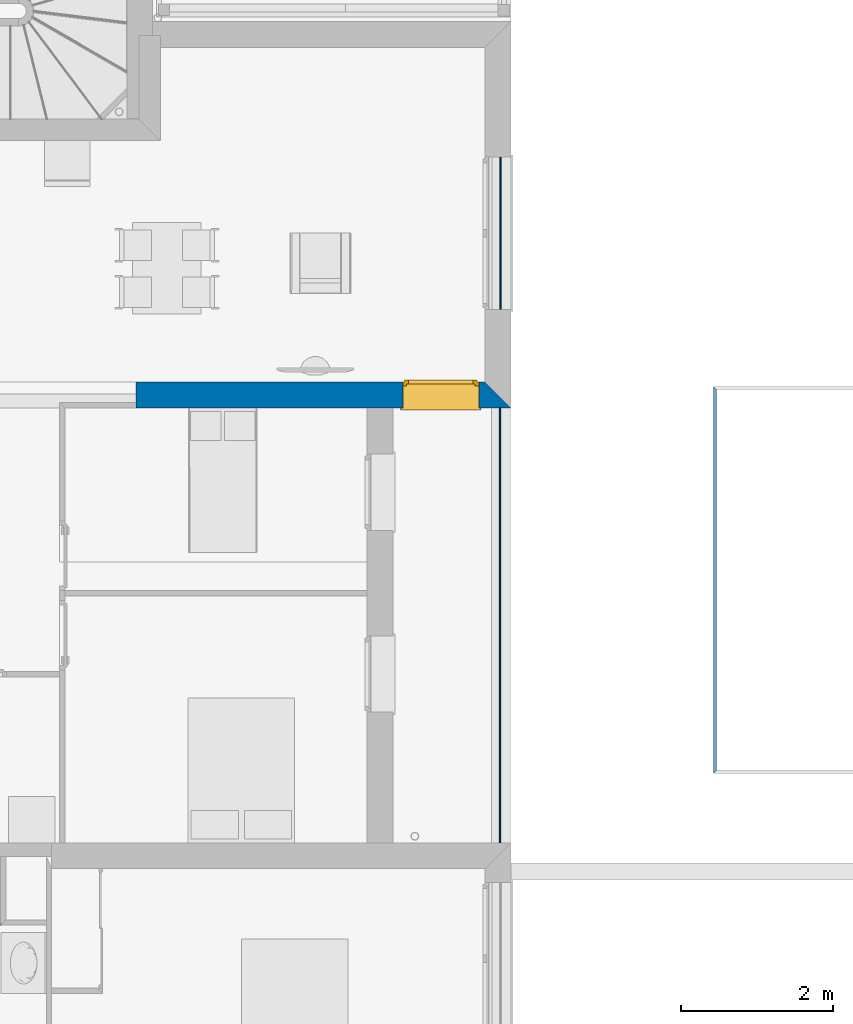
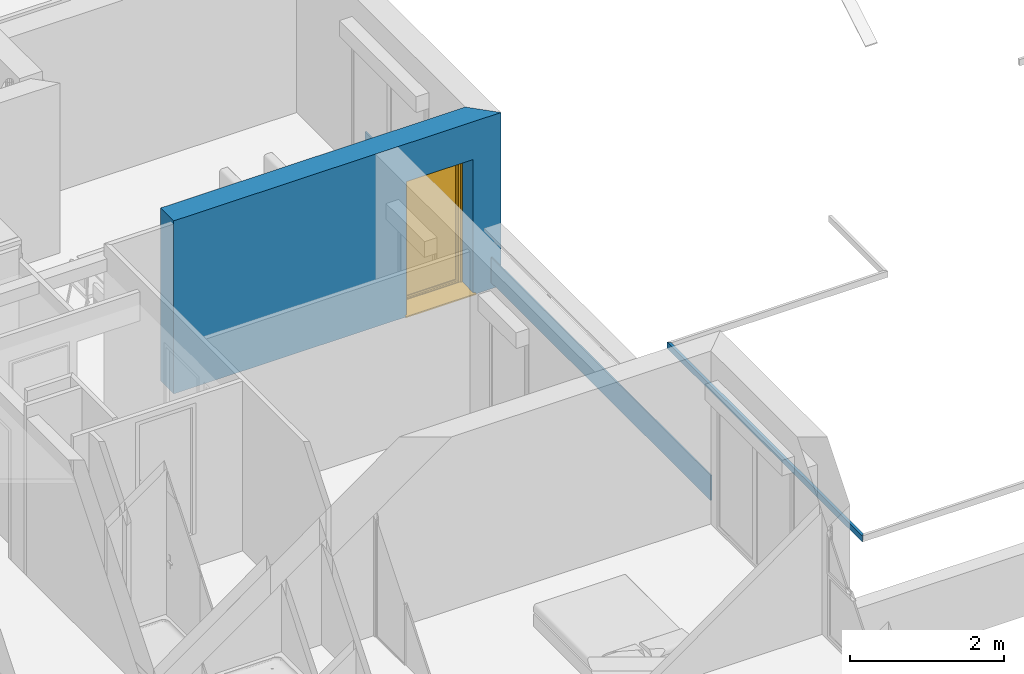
# One storey, part 44 of 171: 4 walls, 1 window, 1 opening.
"""IFC2X3 building model written with IfcOpenShell, lengths in millimetres."""

from ifc_helpers import new_model, entity, si_unit, converted_unit, derived_unit, money_unit, direction, frame, origin_with_axes, place, context, subcontext, project, spatial, polyline, outline, extrude, open_shell, faceted_brep, surface_model, source, transform, mapped, material, layer, layer_set, layer_usage, type_object, element, fill, save


model = new_model("IFC2X3")

# Units and contexts
model_context = context("Model", 3, precision=0.01, world=origin_with_axes(), true_north=direction((0.0, 1.0)))
body_context = subcontext(model_context, "Body", "Model", "MODEL_VIEW")
ifc_project = project(units=[si_unit("LENGTHUNIT", "METRE", prefix="MILLI"), si_unit("AREAUNIT", "SQUARE_METRE"), si_unit("VOLUMEUNIT", "CUBIC_METRE"), converted_unit("PLANEANGLEUNIT", "DEGREE", entity("IfcPlaneAngleMeasure", 0.0174532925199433), si_unit("PLANEANGLEUNIT", "RADIAN"), dimensions=[0, 0, 0, 0, 0, 0, 0]), money_unit("USD"), converted_unit("TIMEUNIT", "Year", entity("IfcTimeMeasure", 31557600.0), si_unit("TIMEUNIT", "SECOND"), dimensions=[0, 0, 1, 0, 0, 0, 0]), si_unit("MASSUNIT", "GRAM", prefix="KILO"), si_unit("THERMODYNAMICTEMPERATUREUNIT", "DEGREE_CELSIUS"), si_unit("LUMINOUSINTENSITYUNIT", "LUMEN"), si_unit("ENERGYUNIT", "JOULE", prefix="MEGA"), derived_unit("THERMALCONDUCTANCEUNIT", [(si_unit("POWERUNIT", "WATT"), 1), (si_unit("LENGTHUNIT", "METRE"), -1), (si_unit("THERMODYNAMICTEMPERATUREUNIT", "KELVIN"), -1)]), derived_unit("SPECIFICHEATCAPACITYUNIT", [(si_unit("ENERGYUNIT", "JOULE"), 1), (si_unit("MASSUNIT", "GRAM", prefix="KILO"), -1), (si_unit("THERMODYNAMICTEMPERATUREUNIT", "KELVIN"), -1)]), derived_unit("MASSDENSITYUNIT", [(si_unit("MASSUNIT", "GRAM", prefix="KILO"), 1), (si_unit("VOLUMEUNIT", "CUBIC_METRE"), -1)])], contexts=[model_context])

# Site, building, storey
site_placement = place(None, origin_with_axes())
site = spatial("IfcSite", under=ifc_project, at=site_placement, Name="Site", CompositionType="ELEMENT")
building_placement = place(site_placement, origin_with_axes())
building = spatial("IfcBuilding", under=site, at=building_placement, Name="Bâtiment", CompositionType="ELEMENT")
storey_placement = place(building_placement, frame((0.0, 0.0, 3000.0), z_axis=(0.0, 0.0, 1.0), x_axis=(1.0, 0.0, 0.0)))
storey = spatial("IfcBuildingStorey", under=building, at=storey_placement, Name="rdc", CompositionType="ELEMENT", Elevation=3000.0)

# Walls
ifc_material_1 = material(Name="MANQUANT")
ifc_layer_1 = layer(ifc_material_1, 20.0, ventilated="UNKNOWN")
ifc_layer_set_1 = layer_set([ifc_layer_1], Name="MANQUANT 20")
ifc_layer_usage_1 = layer_usage(ifc_layer_set_1, "AXIS2", "NEGATIVE", 20.0)
wall_type_1 = type_object("IfcWallType", Name="MANQUANT 20", PredefinedType="NOTDEFINED")
wall_1_placement = place(storey_placement, frame((2234233.084506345, -639732.7039496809, 100.0000000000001), z_axis=(0.0, 0.0, 1.0), x_axis=(-0.0007973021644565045, 0.9999996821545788, 0.0)))
element("IfcWallStandardCase", 1, at=wall_1_placement, inside=storey, type_object=wall_type_1, material=ifc_layer_usage_1, Name="Mur-150", context=body_context, shape_type="SweptSolid", body=[
    extrude(outline(polyline([(0.0, 0.0), (1999.99999989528, 1.13686837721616e-10), (1999.99999989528, 20.0000000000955), (0.0, 20.0000000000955), (0.0, 0.0)])), origin_with_axes(), (0.0, 0.0, 1.0), 400.0),
])
ifc_layer_usage_2 = layer_usage(ifc_layer_set_1, "AXIS2", "NEGATIVE", 20.0)
wall_2_placement = place(storey_placement, frame((2234226.671296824, -646738.4413036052, 100.0000000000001), z_axis=(0.0, 0.0, 1.0), x_axis=(-3.175187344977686e-05, 0.9999999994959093, 0.0)))
element("IfcWallStandardCase", 2, at=wall_2_placement, inside=storey, type_object=wall_type_1, material=ifc_layer_usage_2, Name="Mur-150", context=body_context, shape_type="SweptSolid", body=[
    extrude(outline(polyline([(-2.39295161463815e-06, 0.0), (5713.115768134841, 0.0), (5713.116403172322, 19.99999999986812), (0.000632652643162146, 19.99999999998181), (-2.39295161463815e-06, 0.0)])), origin_with_axes(), (0.0, 0.0, 1.0), 400.0),
])

# Wall, opening, window
ifc_material_2 = material(Name="Parpaing 312445824")
ifc_layer_2 = layer(ifc_material_2, 180.0, ventilated="UNKNOWN")
ifc_material_3 = material(Name="Isolant styromousse 301821074")
ifc_layer_3 = layer(ifc_material_3, 160.0, ventilated="UNKNOWN")
ifc_layer_set_2 = layer_set([ifc_layer_2, ifc_layer_3], Name="isol int 18+16 0018356637")
ifc_layer_usage_3 = layer_usage(ifc_layer_set_2, "AXIS2", "NEGATIVE", 0.0)
wall_type_2 = type_object("IfcWallType", Name="isol int 18+16 0018356637 340", PredefinedType="NOTDEFINED")
wall_3_placement = place(storey_placement, frame((2234356.67129536, -641025.3255383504, 0.0), z_axis=(0.0, 0.0, 1.0), x_axis=(-1.0, 0.0, 0.0)))
wall_3 = element("IfcWallStandardCase", 3, at=wall_3_placement, inside=storey, type_object=wall_type_2, material=ifc_layer_usage_3, Name="Mur-144", context=body_context, shape_type="SweptSolid", body=[
    extrude(outline(polyline([(339.9999998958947, -340.0000000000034), (4921.858403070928, -340.0000000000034), (4921.858403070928, 0.0), (0.0, 0.0), (339.9999998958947, -340.0000000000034)])), origin_with_axes(), (0.0, 0.0, 1.0), 2750.0),
])
opening_placement = place(wall_3_placement, frame((918.6808693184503, 0.0, 0.0), z_axis=(0.0, 0.0, 1.0), x_axis=(1.0, 0.0, 0.0)))
opening = element("IfcOpeningElement", 4, at=opening_placement, cuts=wall_3, Name="Fen-134", context=body_context, shape_type="Brep", body=[
    faceted_brep([(500.0, -341.0000000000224, 2150.000000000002), (-500.0, -341.0000000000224, 2150.000000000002), (-500.0, -341.0000000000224, 0.0), (500.0, -341.0000000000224, 0.0), (500.0, -530.0000000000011, 2150.000000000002), (-500.0, -530.0000000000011, 2150.000000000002), (-500.0, -290.0000000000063, 2150.000000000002), (-500.0, -290.0000000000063, 0.0), (-500.0, 1.000000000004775, 0.0), (500.0, 1.000000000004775, 0.0), (500.0, -290.0000000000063, 0.0), (500.0, -290.0000000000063, 2150.000000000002), (500.0, -280.0000000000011, 2150.000000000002), (500.0, -280.0000000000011, 2400.000000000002), (500.0, -530.0000000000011, 2400.000000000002), (-500.0, -530.0000000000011, 2400.000000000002), (-500.0, -280.0000000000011, 2400.000000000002), (-500.0, -280.0000000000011, 2150.000000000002), (-500.0, 1.000000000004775, 2150.000000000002), (500.0, 1.000000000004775, 2150.000000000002)], [[[0, 1, 2, 3]], [[1, 0, 4, 5]], [[1, 6, 7, 2]], [[7, 8, 9, 10, 3, 2]], [[11, 0, 3, 10]], [[0, 11, 12, 13, 14, 4]], [[15, 5, 4, 14]], [[6, 1, 5, 15, 16, 17]], [[6, 17, 18, 8, 7]], [[19, 9, 8, 18]], [[12, 11, 10, 9, 19]], [[12, 17, 16, 13]], [[16, 15, 14, 13]], [[17, 12, 19, 18]]]),
])
window_style = type_object("IfcWindowStyle", Name="Fenêtre 27", ConstructionType="NOTDEFINED", OperationType="SINGLE_PANEL", ParameterTakesPrecedence=False, Sizeable=False)
shared_shape = source(origin_with_axes(), body_context, "Body", "SurfaceModel", [
    surface_model("IfcShellBasedSurfaceModel", [(500.0, -51.00000000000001, 40.00000000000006), (500.0, -51.00000000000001, 50.00000000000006), (-500.0, -51.00000000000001, 50.0), (-500.0, -51.00000000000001, 40.0), (530.0, -369.9999999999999, 28.96551724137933), (530.0, -339.9999999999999, 30.00324289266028), (500.0, -339.9999999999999, 30.00324289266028), (-500.0, -339.9999999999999, 30.00324289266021), (-530.0, -339.9999999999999, 30.00324289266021), (-530.0, -369.9999999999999, 28.96551724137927), (530.0, -369.9999999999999, 8.96551724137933), (-530.0, -369.9999999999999, 8.965517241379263), (530.0, -359.9999999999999, 18.96551724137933), (-530.0, -359.9999999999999, 18.96551724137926)], [open_shell([[[0, 1, 2, 3]], [[4, 5, 6, 0, 3, 7, 8, 9]], [[10, 4, 9, 11]], [[12, 10, 11, 13]]])]),
    faceted_brep([(-500.0, -59.99999999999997, 2400.0), (-497.0, -59.99999999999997, 2400.0), (-497.0, 190.0, 2400.0), (-500.0, 190.0, 2400.0), (-500.0, -59.99999999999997, 2150.0), (-497.0, -59.99999999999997, 2150.0), (-497.0, 190.0, 2150.0), (-500.0, 190.0, 2150.0)], [[[0, 1, 2, 3]], [[4, 5, 1, 0]], [[1, 5, 6, 2]], [[3, 2, 6, 7]], [[0, 3, 7, 4]], [[7, 6, 5, 4]]]),
    faceted_brep([(497.0, -59.99999999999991, 2400.0), (500.0, -59.99999999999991, 2400.0), (500.0, 190.0000000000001, 2400.0), (497.0, 190.0000000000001, 2400.0), (497.0, -59.99999999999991, 2150.0), (500.0, -59.99999999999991, 2150.0), (500.0, 190.0000000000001, 2150.0), (497.0, 190.0000000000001, 2150.0)], [[[0, 1, 2, 3]], [[4, 5, 1, 0]], [[1, 5, 6, 2]], [[3, 2, 6, 7]], [[0, 3, 7, 4]], [[7, 6, 5, 4]]]),
    faceted_brep([(-497.0, -60.0, 2150.0), (497.0, -59.99999999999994, 2150.0), (497.0, -59.99999999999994, 2400.0), (-497.0, -60.0, 2400.0), (-497.0, -56.99999999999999, 2150.0), (497.0, -56.99999999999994, 2150.0), (497.0, -56.99999999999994, 2397.0), (497.0, 187.0000000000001, 2397.0), (497.0, 187.0000000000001, 2153.0), (497.0, -37.99999999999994, 2153.0), (497.0, -37.99999999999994, 2150.0), (497.0, 190.0000000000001, 2150.0), (497.0, 190.0000000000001, 2400.0), (-497.0, 190.0, 2400.0), (-497.0, 190.0, 2150.0), (-497.0, -37.99999999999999, 2150.0), (-497.0, -37.99999999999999, 2153.0), (-497.0, 187.0, 2153.0), (-497.0, 187.0, 2397.0), (-497.0, -56.99999999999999, 2397.0)], [[[0, 1, 2, 3]], [[4, 5, 1, 0]], [[1, 5, 6, 7, 8, 9, 10, 11, 12, 2]], [[3, 2, 12, 13]], [[0, 3, 13, 14, 15, 16, 17, 18, 19, 4]], [[19, 6, 5, 4]], [[18, 7, 6, 19]], [[17, 8, 7, 18]], [[16, 9, 8, 17]], [[15, 10, 9, 16]], [[14, 11, 10, 15]], [[13, 12, 11, 14]]]),
    faceted_brep([(-494.0, -40.37442957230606, 2256.419644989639), (-494.0, -41.99999999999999, 2275.0), (-494.0, -40.37442957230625, 2293.580355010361), (-494.0, -35.54711042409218, 2311.596155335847), (-494.0, -27.66471820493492, 2328.5), (-494.0, -16.96675541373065, 2343.77827423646), (-494.0, -3.778274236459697, 2356.96675541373), (-494.0, 11.5, 2367.664718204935), (-494.0, 28.40384466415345, 2375.547110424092), (-494.0, 46.41964498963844, 2380.374429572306), (-494.0, 64.99999999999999, 2382.0), (-494.0, 83.58035501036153, 2380.374429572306), (-494.0, 101.5961553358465, 2375.547110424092), (-494.0, 118.5, 2367.664718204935), (-494.0, 133.7782742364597, 2356.96675541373), (-494.0, 146.9667554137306, 2343.77827423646), (-494.0, 157.6647182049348, 2328.5), (-494.0, 165.5471104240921, 2311.596155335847), (-494.0, 170.3744295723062, 2293.580355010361), (-494.0, 171.9999999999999, 2275.0), (-494.0, 170.3744295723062, 2256.419644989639), (-494.0, 165.5471104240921, 2238.403844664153), (-494.0, 157.6647182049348, 2221.5), (-494.0, 146.9667554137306, 2206.22172576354), (-494.0, 133.7782742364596, 2193.033244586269), (-494.0, 118.4999999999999, 2182.335281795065), (-494.0, 101.5961553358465, 2174.452889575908), (-494.0, 83.58035501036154, 2169.625570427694), (-494.0, 65.00000000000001, 2168.0), (-494.0, 46.4196449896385, 2169.625570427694), (-494.0, 28.40384466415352, 2174.452889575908), (-494.0, 11.50000000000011, 2182.335281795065), (-494.0, -3.778274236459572, 2193.033244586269), (-494.0, -16.9667554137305, 2206.22172576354), (-494.0, -27.66471820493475, 2221.5), (-494.0, -35.54711042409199, 2238.403844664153), (494.0, -40.374429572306, 2256.419644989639), (494.0, -41.99999999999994, 2275.0), (494.0, -40.37442957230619, 2293.580355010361), (494.0, -35.54711042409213, 2311.596155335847), (494.0, -27.66471820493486, 2328.5), (494.0, -16.96675541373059, 2343.77827423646), (494.0, -3.778274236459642, 2356.96675541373), (494.0, 11.50000000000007, 2367.664718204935), (494.0, 28.40384466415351, 2375.547110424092), (494.0, 46.41964498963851, 2380.374429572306), (494.0, 65.00000000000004, 2382.0), (494.0, 83.58035501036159, 2380.374429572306), (494.0, 101.5961553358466, 2375.547110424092), (494.0, 118.5, 2367.664718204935), (494.0, 133.7782742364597, 2356.96675541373), (494.0, 146.9667554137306, 2343.77827423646), (494.0, 157.6647182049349, 2328.5), (494.0, 165.5471104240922, 2311.596155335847), (494.0, 170.3744295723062, 2293.580355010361), (494.0, 172.0, 2275.0), (494.0, 170.3744295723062, 2256.419644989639), (494.0, 165.5471104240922, 2238.403844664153), (494.0, 157.6647182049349, 2221.5), (494.0, 146.9667554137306, 2206.22172576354), (494.0, 133.7782742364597, 2193.033244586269), (494.0, 118.5, 2182.335281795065), (494.0, 101.5961553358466, 2174.452889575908), (494.0, 83.5803550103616, 2169.625570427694), (494.0, 65.00000000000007, 2168.0), (494.0, 46.41964498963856, 2169.625570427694), (494.0, 28.40384466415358, 2174.452889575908), (494.0, 11.50000000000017, 2182.335281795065), (494.0, -3.778274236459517, 2193.033244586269), (494.0, -16.96675541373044, 2206.22172576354), (494.0, -27.6647182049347, 2221.5), (494.0, -35.54711042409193, 2238.403844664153)], [[[0, 1, 2, 3, 4, 5, 6, 7, 8, 9, 10, 11, 12, 13, 14, 15, 16, 17, 18, 19, 20, 21, 22, 23, 24, 25, 26, 27, 28, 29, 30, 31, 32, 33, 34, 35]], [[0, 36, 37, 1]], [[1, 37, 38, 2]], [[2, 38, 39, 3]], [[3, 39, 40, 4]], [[4, 40, 41, 5]], [[5, 41, 42, 6]], [[6, 42, 43, 7]], [[7, 43, 44, 8]], [[8, 44, 45, 9]], [[9, 45, 46, 10]], [[10, 46, 47, 11]], [[11, 47, 48, 12]], [[12, 48, 49, 13]], [[13, 49, 50, 14]], [[14, 50, 51, 15]], [[15, 51, 52, 16]], [[16, 52, 53, 17]], [[17, 53, 54, 18]], [[18, 54, 55, 19]], [[19, 55, 56, 20]], [[20, 56, 57, 21]], [[21, 57, 58, 22]], [[22, 58, 59, 23]], [[23, 59, 60, 24]], [[24, 60, 61, 25]], [[25, 61, 62, 26]], [[26, 62, 63, 27]], [[27, 63, 64, 28]], [[28, 64, 65, 29]], [[29, 65, 66, 30]], [[30, 66, 67, 31]], [[31, 67, 68, 32]], [[32, 68, 69, 33]], [[33, 69, 70, 34]], [[34, 70, 71, 35]], [[35, 71, 36, 0]], [[36, 71, 70, 69, 68, 67, 66, 65, 64, 63, 62, 61, 60, 59, 58, 57, 56, 55, 54, 53, 52, 51, 50, 49, 48, 47, 46, 45, 44, 43, 42, 41, 40, 39, 38, 37]]]),
    faceted_brep([(500.0, -34.99999999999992, 30.0), (500.0, -34.99999999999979, 2150.0), (500.0, -59.99999999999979, 2150.0), (500.0, -59.99999999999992, 30.0), (475.0, -34.99999999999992, 30.0), (475.0, -34.99999999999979, 2150.0), (475.0, -37.99999999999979, 2150.0), (497.0, -37.99999999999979, 2150.0), (497.0, -56.99999999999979, 2150.0), (475.0, -56.99999999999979, 2150.0), (475.0, -59.99999999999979, 2150.0), (475.0, -59.99999999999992, 30.0), (475.0, -56.99999999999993, 30.0), (497.0, -56.99999999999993, 30.0), (497.0, -37.99999999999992, 30.0), (475.0, -37.99999999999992, 30.0)], [[[0, 1, 2, 3]], [[4, 5, 1, 0]], [[1, 5, 6, 7, 8, 9, 10, 2]], [[3, 2, 10, 11]], [[0, 3, 11, 12, 13, 14, 15, 4]], [[15, 6, 5, 4]], [[14, 7, 6, 15]], [[13, 8, 7, 14]], [[12, 9, 8, 13]], [[11, 10, 9, 12]]]),
    faceted_brep([(-500.0, -34.99999999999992, 30.0), (-500.0, -59.99999999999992, 30.0), (-500.0, -59.99999999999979, 2150.0), (-500.0, -34.99999999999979, 2150.0), (-475.0, -34.99999999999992, 30.0), (-475.0, -37.99999999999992, 30.0), (-497.0, -37.99999999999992, 30.0), (-497.0, -56.99999999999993, 30.0), (-475.0, -56.99999999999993, 30.0), (-475.0, -59.99999999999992, 30.0), (-475.0, -59.99999999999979, 2150.0), (-475.0, -56.99999999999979, 2150.0), (-497.0, -56.99999999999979, 2150.0), (-497.0, -37.99999999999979, 2150.0), (-475.0, -37.99999999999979, 2150.0), (-475.0, -34.99999999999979, 2150.0)], [[[0, 1, 2, 3]], [[0, 4, 5, 6, 7, 8, 9, 1]], [[1, 9, 10, 2]], [[3, 2, 10, 11, 12, 13, 14, 15]], [[4, 0, 3, 15]], [[5, 4, 15, 14]], [[6, 5, 14, 13]], [[7, 6, 13, 12]], [[8, 7, 12, 11]], [[9, 8, 11, 10]]]),
    faceted_brep([(497.0, -46.66666666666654, 2275.0), (497.0, -46.66666666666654, 2266.666666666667), (-497.0, -46.6666666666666, 2266.666666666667), (-497.0, -46.6666666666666, 2275.0), (497.0, -51.66666666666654, 2275.0), (497.0, -51.66666666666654, 2266.666666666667), (497.0, -49.99999999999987, 2250.0), (497.0, -44.99999999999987, 2250.0), (-497.0, -44.99999999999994, 2250.0), (-497.0, -49.99999999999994, 2250.0), (-497.0, -51.6666666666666, 2266.666666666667), (-497.0, -51.6666666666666, 2275.0)], [[[0, 1, 2, 3]], [[4, 5, 6, 7, 1, 0]], [[2, 1, 7, 8]], [[3, 2, 8, 9, 10, 11]], [[3, 11, 4, 0]], [[10, 5, 4, 11]], [[9, 6, 5, 10]], [[8, 7, 6, 9]]]),
    faceted_brep([(-497.0, -44.99999999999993, 2250.0), (497.0, -44.99999999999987, 2250.0), (497.0, -46.66666666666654, 2233.333333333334), (-497.0, -46.6666666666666, 2233.333333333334), (-497.0, -49.99999999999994, 2250.0), (497.0, -49.99999999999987, 2250.0), (497.0, -51.66666666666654, 2233.333333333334), (497.0, -51.66666666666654, 2216.666666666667), (497.0, -49.99999999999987, 2200.0), (497.0, -44.99999999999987, 2200.0), (497.0, -46.66666666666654, 2216.666666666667), (-497.0, -46.6666666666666, 2216.666666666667), (-497.0, -44.99999999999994, 2200.0), (-497.0, -49.99999999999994, 2200.0), (-497.0, -51.6666666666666, 2216.666666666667), (-497.0, -51.6666666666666, 2233.333333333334)], [[[0, 1, 2, 3]], [[4, 5, 1, 0]], [[1, 5, 6, 7, 8, 9, 10, 2]], [[3, 2, 10, 11]], [[0, 3, 11, 12, 13, 14, 15, 4]], [[15, 6, 5, 4]], [[14, 7, 6, 15]], [[13, 8, 7, 14]], [[12, 9, 8, 13]], [[11, 10, 9, 12]]]),
    faceted_brep([(-497.0, -44.99999999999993, 2200.0), (497.0, -44.99999999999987, 2200.0), (497.0, -46.66666666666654, 2183.333333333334), (-497.0, -46.6666666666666, 2183.333333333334), (-497.0, -49.99999999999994, 2200.0), (497.0, -49.99999999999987, 2200.0), (497.0, -51.66666666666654, 2183.333333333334), (497.0, -51.66666666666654, 2166.666666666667), (497.0, -49.99999999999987, 2150.000000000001), (497.0, -44.99999999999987, 2150.000000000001), (497.0, -46.66666666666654, 2166.666666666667), (-497.0, -46.6666666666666, 2166.666666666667), (-497.0, -44.99999999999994, 2150.000000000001), (-497.0, -49.99999999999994, 2150.000000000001), (-497.0, -51.6666666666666, 2166.666666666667), (-497.0, -51.6666666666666, 2183.333333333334)], [[[0, 1, 2, 3]], [[4, 5, 1, 0]], [[1, 5, 6, 7, 8, 9, 10, 2]], [[3, 2, 10, 11]], [[0, 3, 11, 12, 13, 14, 15, 4]], [[15, 6, 5, 4]], [[14, 7, 6, 15]], [[13, 8, 7, 14]], [[12, 9, 8, 13]], [[11, 10, 9, 12]]]),
    faceted_brep([(-475.0000000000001, 0.0, 2100.0), (-500.0, 0.0, 2100.0), (-500.0, -50.00000000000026, 2100.0), (-450.0, -50.00000000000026, 2100.0), (-450.0, -25.00000000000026, 2100.0), (-475.0000000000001, -25.00000000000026, 2100.0), (-475.0000000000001, 0.0, 50.00000000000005), (-500.0, 0.0, 50.00000000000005), (-500.0, -50.00000000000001, 50.00000000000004), (-450.0, -50.00000000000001, 50.00000000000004), (-450.0, -25.00000000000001, 50.00000000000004), (-475.0000000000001, -25.00000000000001, 50.00000000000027)], [[[0, 1, 2, 3, 4, 5]], [[6, 7, 1, 0]], [[1, 7, 8, 2]], [[2, 8, 9, 3]], [[4, 3, 9, 10]], [[10, 11, 5, 4]], [[5, 11, 6, 0]], [[11, 10, 9, 8, 7, 6]]]),
    faceted_brep([(450.0, -25.00000000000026, 2100.0), (450.0, -50.00000000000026, 2100.0), (500.0, -50.00000000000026, 2100.0), (500.0, 0.0, 2100.0), (475.0000000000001, 0.0, 2100.0), (475.0000000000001, -25.00000000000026, 2100.0), (450.0, -25.00000000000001, 50.00000000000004), (450.0, -50.00000000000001, 50.00000000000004), (500.0, -50.00000000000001, 50.00000000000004), (500.0, 0.0, 50.00000000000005), (475.0000000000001, 0.0, 50.00000000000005), (475.0000000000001, -25.00000000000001, 50.00000000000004)], [[[0, 1, 2, 3, 4, 5]], [[6, 7, 1, 0]], [[8, 2, 1, 7]], [[9, 3, 2, 8]], [[4, 3, 9, 10]], [[10, 11, 5, 4]], [[5, 11, 6, 0]], [[11, 10, 9, 8, 7, 6]]]),
    faceted_brep([(450.0, -25.00000000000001, 50.00000000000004), (450.0, -50.00000000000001, 50.00000000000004), (500.0, -50.00000000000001, 50.00000000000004), (500.0, 0.0, 50.00000000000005), (475.0000000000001, 0.0, 50.00000000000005), (475.0000000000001, -25.00000000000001, 50.00000000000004), (-450.0, -25.00000000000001, 50.00000000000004), (-450.0, -50.00000000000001, 50.00000000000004), (-500.0, -50.00000000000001, 50.00000000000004), (-500.0, -50.0, 0.0), (500.0, -50.0, 0.0), (500.0, 0.0, 0.0), (-475.0000000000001, 0.0, 24.99999999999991), (475.0000000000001, 0.0, 24.99999999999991), (-500.0, 0.0, 0.0), (-500.0, 0.0, 50.00000000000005), (-475.0000000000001, 0.0, 50.00000000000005), (475.0000000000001, -25.0, 24.99999999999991), (-475.0000000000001, -25.0, 24.99999999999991), (-475.0000000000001, -25.00000000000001, 50.00000000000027)], [[[0, 1, 2, 3, 4, 5]], [[6, 7, 1, 0]], [[8, 9, 10, 2, 1, 7]], [[11, 3, 2, 10]], [[12, 13, 4, 3, 11, 14, 15, 16]], [[13, 17, 5, 4]], [[5, 17, 18, 19, 6, 0]], [[19, 16, 15, 8, 7, 6]], [[15, 14, 9, 8]], [[14, 11, 10, 9]], [[12, 18, 17, 13]], [[19, 18, 12, 16]]]),
    faceted_brep([(-475.0000000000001, 0.0, 2100.0), (-500.0, 0.0, 2100.0), (-500.0, 0.0, 2150.0), (500.0, 0.0, 2150.0), (500.0, 0.0, 2100.0), (475.0000000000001, 0.0, 2100.0), (475.0000000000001, 0.0, 2125.0), (-475.0000000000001, 0.0, 2125.0), (-475.0000000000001, -25.00000000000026, 2100.0), (-450.0, -25.00000000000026, 2100.0), (-450.0, -50.00000000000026, 2100.0), (-500.0, -50.00000000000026, 2100.0), (-500.0, -50.00000000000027, 2150.0), (500.0, -50.00000000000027, 2150.0), (500.0, -50.00000000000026, 2100.0), (475.0000000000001, -25.00000000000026, 2100.0), (450.0, -50.00000000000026, 2100.0), (450.0, -25.00000000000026, 2100.0), (475.0000000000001, -25.00000000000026, 2125.0), (-475.0000000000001, -25.00000000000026, 2125.0)], [[[0, 1, 2, 3, 4, 5, 6, 7]], [[8, 9, 10, 11, 1, 0]], [[2, 1, 11, 12]], [[3, 2, 12, 13]], [[4, 3, 13, 14]], [[15, 5, 4, 14, 16, 17]], [[5, 15, 18, 6]], [[6, 18, 19, 7]], [[7, 19, 8, 0]], [[17, 9, 8, 19, 18, 15]], [[17, 16, 10, 9]], [[14, 13, 12, 11, 10, 16]]]),
    faceted_brep([(-425.0000000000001, -25.00000000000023, 2075.0), (-425.0000000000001, 24.99999999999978, 2075.0), (-475.0000000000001, 24.99999999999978, 2075.0), (-475.0000000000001, -25.00000000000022, 2075.0), (-425.0000000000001, -24.99999999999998, 75.00000000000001), (-425.0000000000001, 25.00000000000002, 75.00000000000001), (-475.0000000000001, 25.00000000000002, 75.00000000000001), (-475.0000000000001, -24.99999999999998, 75.00000000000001)], [[[0, 1, 2, 3]], [[4, 5, 1, 0]], [[1, 5, 6, 2]], [[3, 2, 6, 7]], [[0, 3, 7, 4]], [[7, 6, 5, 4]]]),
    faceted_brep([(425.0000000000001, -25.00000000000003, 75.00000000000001), (425.0000000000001, 24.99999999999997, 75.00000000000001), (475.0000000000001, 24.99999999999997, 75.00000000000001), (475.0000000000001, -25.00000000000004, 75.00000000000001), (425.0000000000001, -25.00000000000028, 2075.0), (425.0000000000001, 24.99999999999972, 2075.0), (475.0000000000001, 24.99999999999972, 2075.0), (475.0000000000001, -25.00000000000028, 2075.0)], [[[0, 1, 2, 3]], [[4, 5, 1, 0]], [[1, 5, 6, 2]], [[3, 2, 6, 7]], [[0, 3, 7, 4]], [[7, 6, 5, 4]]]),
    faceted_brep([(475.0000000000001, -25.00000000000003, 25.0), (475.0000000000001, 24.99999999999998, 25.00000000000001), (475.0000000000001, 24.99999999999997, 75.00000000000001), (475.0000000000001, -25.00000000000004, 75.00000000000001), (-475.0000000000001, -24.99999999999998, 25.0), (-475.0000000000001, 25.00000000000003, 25.00000000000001), (-475.0000000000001, 25.00000000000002, 75.00000000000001), (-425.0000000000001, 25.00000000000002, 75.00000000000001), (425.0000000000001, 24.99999999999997, 75.00000000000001), (425.0000000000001, -25.00000000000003, 75.00000000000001), (-425.0000000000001, -24.99999999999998, 75.00000000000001), (-475.0000000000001, -24.99999999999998, 75.00000000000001)], [[[0, 1, 2, 3]], [[4, 5, 1, 0]], [[1, 5, 6, 7, 8, 2]], [[3, 2, 8, 9]], [[0, 3, 9, 10, 11, 4]], [[11, 6, 5, 4]], [[10, 7, 6, 11]], [[9, 8, 7, 10]]]),
    faceted_brep([(-475.0000000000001, -25.00000000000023, 2125.0), (-475.0000000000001, 24.99999999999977, 2125.0), (-475.0000000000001, 24.99999999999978, 2075.0), (-475.0000000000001, -25.00000000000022, 2075.0), (475.0000000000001, -25.00000000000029, 2125.0), (475.0000000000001, 24.99999999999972, 2125.0), (475.0000000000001, 24.99999999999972, 2075.0), (425.0000000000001, 24.99999999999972, 2075.0), (-425.0000000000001, 24.99999999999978, 2075.0), (-425.0000000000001, -25.00000000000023, 2075.0), (425.0000000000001, -25.00000000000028, 2075.0), (475.0000000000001, -25.00000000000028, 2075.0)], [[[0, 1, 2, 3]], [[4, 5, 1, 0]], [[1, 5, 6, 7, 8, 2]], [[3, 2, 8, 9]], [[0, 3, 9, 10, 11, 4]], [[11, 6, 5, 4]], [[10, 7, 6, 11]], [[9, 8, 7, 10]]]),
    surface_model("IfcShellBasedSurfaceModel", [(-425.0000000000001, -10.00000000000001, 75.00000000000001), (425.0000000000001, -10.00000000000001, 75.00000000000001), (425.0000000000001, -10.00000000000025, 2075.0), (-425.0000000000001, -10.00000000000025, 2075.0)], [open_shell([[[0, 1, 2, 3]]])]),
    surface_model("IfcShellBasedSurfaceModel", [(-425.0000000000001, 9.999999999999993, 75.00000000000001), (-425.0000000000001, 9.99999999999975, 2075.0), (425.0000000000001, 9.99999999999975, 2075.0), (425.0000000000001, 9.999999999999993, 75.00000000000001)], [open_shell([[[0, 1, 2, 3]]])]),
])
window_placement = place(opening_placement, frame((500.0, 0.0, 0.0), z_axis=(0.0, 0.0, 1.0), x_axis=(-1.0, 0.0, 0.0)))
window = element("IfcWindow", 5, at=window_placement, inside=storey, type_object=window_style, Name="Fen-134", OverallHeight=2150.0, OverallWidth=1000.0, context=body_context, shape_type="MappedRepresentation", body=[
    mapped(shared_shape, transform((500.0, 340.0000000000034, 0.0))),
])
fill(opening, window)

# Wall
ifc_material_4 = material(Name="Empty Fill 292498448")
ifc_layer_4 = layer(ifc_material_4, 40.0, ventilated="UNKNOWN")
ifc_layer_set_3 = layer_set([ifc_layer_4], Name="mur 4cm")
ifc_layer_usage_4 = layer_usage(ifc_layer_set_3, "AXIS2", "POSITIVE", -40.0)
wall_type_3 = type_object("IfcWallType", Name="mur 4cm 40", PredefinedType="NOTDEFINED")
wall_4_placement = place(storey_placement, frame((2237056.657583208, -640784.8035284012, -2100.0), z_axis=(0.0, 0.0, 1.0), x_axis=(0.0, -1.0, 0.0)))
element("IfcWallStandardCase", 6, at=wall_4_placement, inside=storey, type_object=wall_type_3, material=ifc_layer_usage_4, Name="Mur-165", context=body_context, shape_type="SweptSolid", body=[
    extrude(outline(polyline([(-40.00000000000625, -39.99999999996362), (5040.000000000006, -39.99999999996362), (5000.0, 0.0), (0.0, 0.0), (-40.00000000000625, -39.99999999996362)])), origin_with_axes(), (0.0, 0.0, 1.0), 100.0),
])

save(model, "model.ifc")
